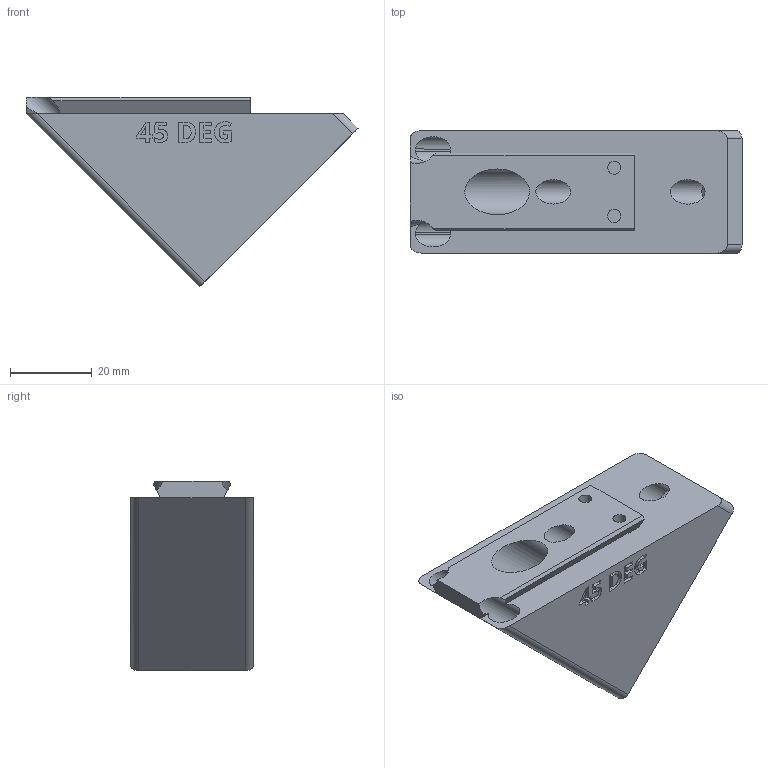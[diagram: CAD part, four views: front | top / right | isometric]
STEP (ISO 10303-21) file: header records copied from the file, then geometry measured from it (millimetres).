
FILE_DESCRIPTION(/* description */ ('STEP AP242 Edition 2','CAx-IF Rec.Pracs.---Representation and Presentation of Product Manufacturing Information (PMI)---4.0---2014-10-13','CAx-IF Rec.Pracs.---3D Tessellated Geometry---0.4---2014-09-14','2;1','CAx-IF Rec.Pracs.---User Defined Attributes---1.5---2016-08-15'),/* implementation_level */ '2;1');
FILE_NAME(/* name */ 'Camera Wedges - CAMERA MOUNTING WEDGE, POS, 45 DEG',/* time_stamp */ '2026-07-08T20:40:42Z',/* author */ (''),/* organization */ (''),/* preprocessor_version */ 'ST-DEVELOPER v20',/* originating_system */ 'ONSHAPE BY PTC INC, 1.217',/* authorisation */ ' ');
FILE_SCHEMA (('AP242_MANAGED_MODEL_BASED_3D_ENGINEERING_MIM_LF { 1 0 10303 442 3 1 4 }'));
Length unit declared in the file: metre
Products named in the file (1): CAMERA MOUNTING WEDGE, POS, 45 DEG
Bounding box: 81.32 x 30 x 46.53 mm (x, y, z)
Volume: 47396.8 mm3; surface area: 15014.1 mm2
Topology: 1 solids, 1 shells, 251 faces, 688 edges, 459 vertices
Faces by surface type: plane 157, cylinder 52, bspline 42
Full cylindrical faces by diameter (mm): 3.2 x4, 6 x2, 6.4 x1, 11.2 x1
Entity records: 8049 total; most frequent: CARTESIAN_POINT 1847, ORIENTED_EDGE 1354, DIRECTION 1129, EDGE_CURVE 677, LINE 477, VECTOR 477, VERTEX_POINT 456, AXIS2_PLACEMENT_3D 326
